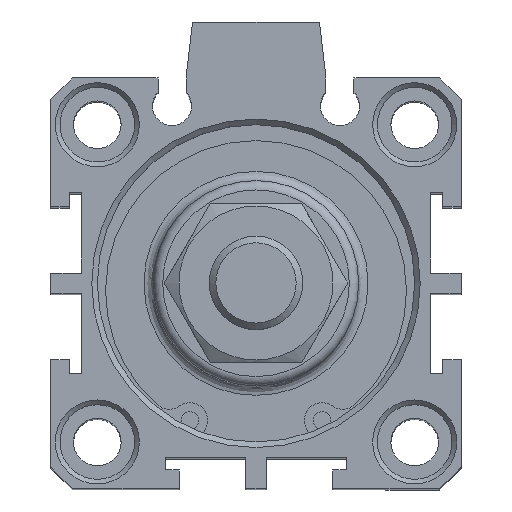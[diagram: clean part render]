
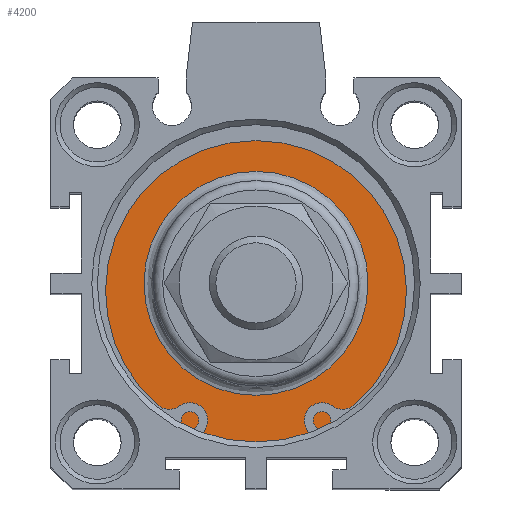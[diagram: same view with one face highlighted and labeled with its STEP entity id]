
A CAD part, top view. The second image highlights one B-rep face of the part: STEP entity #4200.
In plain terms, the highlighted planar face has unit normal (0, 0, 1).
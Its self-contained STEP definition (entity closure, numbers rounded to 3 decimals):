
#4149=CARTESIAN_POINT('',(2.273,12.598,80.8));
#4150=VERTEX_POINT('',#4149);
#4151=CARTESIAN_POINT('',(2.273,0.598,80.8));
#4152=DIRECTION('',(0.0,0.0,1.0));
#4153=DIRECTION('',(0.0,-1.0,0.0));
#4154=AXIS2_PLACEMENT_3D('',#4151,#4152,#4153);
#4155=CIRCLE('',#4154,12.);
#4156=EDGE_CURVE('',#4150,#4150,#4155,.T.);
#4181=CARTESIAN_POINT('',(2.273,14.598,80.8));
#4182=DIRECTION('',(0.0,0.0,1.0));
#4183=DIRECTION('',(1.0,0.0,0.0));
#4184=AXIS2_PLACEMENT_3D('',#4181,#4182,#4183);
#4185=PLANE('',#4184);
#4186=CARTESIAN_POINT('',(2.273,17.598,80.8));
#4187=VERTEX_POINT('',#4186);
#4188=CARTESIAN_POINT('',(2.273,0.598,80.8));
#4189=DIRECTION('',(0.0,0.0,-1.0));
#4190=DIRECTION('',(0.0,1.0,0.0));
#4191=AXIS2_PLACEMENT_3D('',#4188,#4189,#4190);
#4192=CIRCLE('',#4191,17.);
#4193=EDGE_CURVE('',#4187,#4187,#4192,.T.);
#4194=ORIENTED_EDGE('',*,*,#4193,.F.);
#4195=EDGE_LOOP('',(#4194));
#4196=FACE_OUTER_BOUND('',#4195,.T.);
#4197=ORIENTED_EDGE('',*,*,#4156,.F.);
#4198=EDGE_LOOP('',(#4197));
#4199=FACE_BOUND('',#4198,.T.);
#4200=ADVANCED_FACE('',(#4196,#4199),#4185,.T.);
